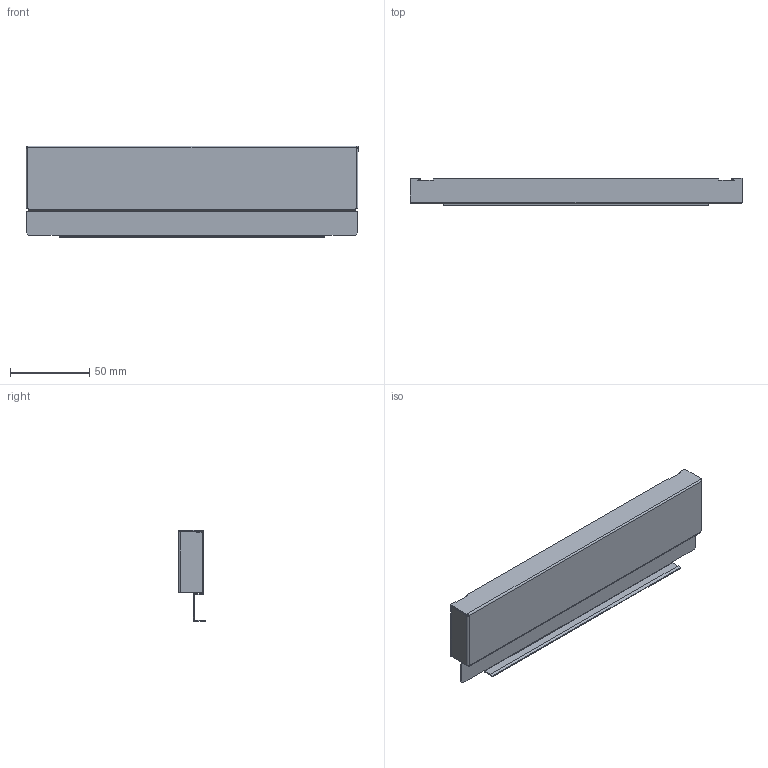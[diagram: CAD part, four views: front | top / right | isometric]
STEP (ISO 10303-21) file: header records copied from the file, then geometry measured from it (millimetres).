
FILE_DESCRIPTION (( 'STEP AP214' ), '1' );
FILE_NAME ('_STRW_H63_KAB_300.step', '2010-08-24T14:40:48', ( 'grass' ), ( '' ), 'SwSTEP 2.0', 'SolidWorks 2009', '' );
FILE_SCHEMA (( 'AUTOMOTIVE_DESIGN' ));
Length unit declared in the file: millimetre
Products named in the file (1): _STRW_H63_KAB_300
Bounding box: 210 x 17 x 58.14 mm (x, y, z)
Volume: 15214.1 mm3; surface area: 38581.8 mm2
Topology: 1 solids, 1 shells, 77 faces, 217 edges, 142 vertices
Faces by surface type: plane 54, cylinder 23
Entity records: 2507 total; most frequent: CARTESIAN_POINT 437, ORIENTED_EDGE 434, DIRECTION 419, EDGE_CURVE 217, LINE 171, VECTOR 171, VERTEX_POINT 142, AXIS2_PLACEMENT_3D 124
